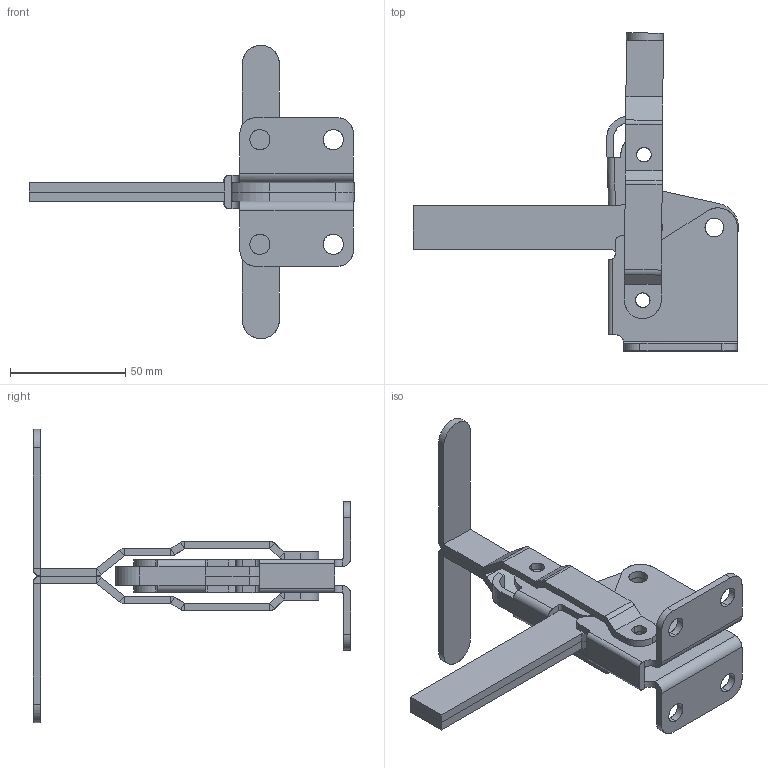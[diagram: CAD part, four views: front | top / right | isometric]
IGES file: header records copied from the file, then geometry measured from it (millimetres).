
Start section: SolidWorks IGES file using analytic representation for surfaces
Global section: file name: D:\GH Files\GH-SW-FILES\GH1\GH-12270\12295\GH-12295.IGS; native system: SolidWorks 2006 by SolidWorks Corporation; preprocessor: SolidWorks 2006 by SolidWorks Corporation; author: Administrator; date: 060825.155229; units: millimetre
Bounding box: 140.8 x 137.66 x 127 mm (x, y, z)
Surface area: 51899 mm2 (no closed solid volume)
Topology: 0 solids, 0 shells, 266 faces, 3456 edges, 3456 vertices
Faces by surface type: bspline 146, revolution 120
